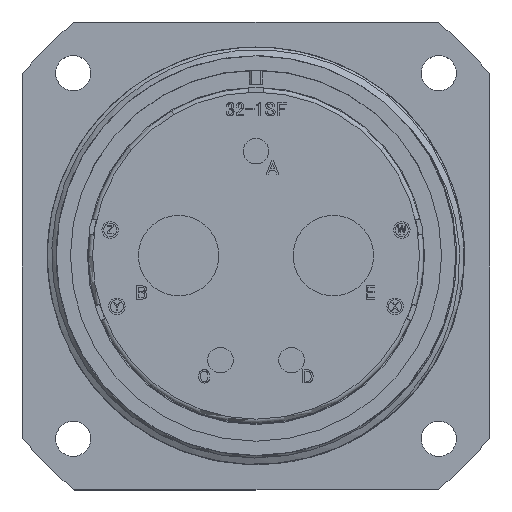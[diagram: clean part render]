
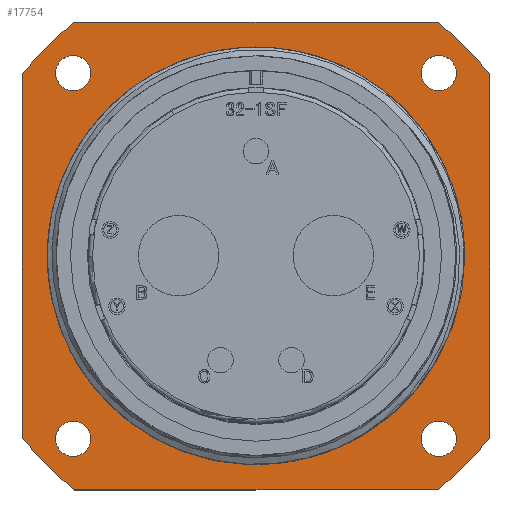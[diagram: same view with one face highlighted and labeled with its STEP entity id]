
A CAD part, top view. The second image highlights one B-rep face of the part: STEP entity #17754.
In plain terms, the highlighted planar face has unit normal (0, 0, 1).
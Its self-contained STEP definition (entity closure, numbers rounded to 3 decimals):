
#70 = FACE_BOUND ( 'NONE', #11928, .T. ) ;
#612 = AXIS2_PLACEMENT_3D ( 'NONE', #27359, #22939, #16564 ) ;
#1085 = FACE_BOUND ( 'NONE', #10153, .T. ) ;
#1954 = VERTEX_POINT ( 'NONE', #6084 ) ;
#2079 = AXIS2_PLACEMENT_3D ( 'NONE', #9412, #24496, #11592 ) ;
#2088 = FACE_OUTER_BOUND ( 'NONE', #9133, .T. ) ;
#2106 = ORIENTED_EDGE ( 'NONE', *, *, #27955, .F. ) ;
#2226 = DIRECTION ( 'NONE',  ( 1., 0., 0. ) ) ;
#2342 = VECTOR ( 'NONE', #19134, 1000. ) ;
#2668 = DIRECTION ( 'NONE',  ( 0., 0., 1. ) ) ;
#3147 = VERTEX_POINT ( 'NONE', #7499 ) ;
#3341 = AXIS2_PLACEMENT_3D ( 'NONE', #24851, #26928, #22784 ) ;
#3880 = VERTEX_POINT ( 'NONE', #22207 ) ;
#4613 = DIRECTION ( 'NONE',  ( 0., 0., 1. ) ) ;
#4856 = DIRECTION ( 'NONE',  ( 1., 0., 0. ) ) ;
#5010 = ORIENTED_EDGE ( 'NONE', *, *, #20428, .F. ) ;
#5076 = VERTEX_POINT ( 'NONE', #27268 ) ;
#5521 = DIRECTION ( 'NONE',  ( 0., 0., 1. ) ) ;
#5614 = ORIENTED_EDGE ( 'NONE', *, *, #14284, .F. ) ;
#5782 = ORIENTED_EDGE ( 'NONE', *, *, #19421, .T. ) ;
#6084 = CARTESIAN_POINT ( 'NONE',  ( -22.059, -28.45, -22.4 ) ) ;
#6356 = EDGE_CURVE ( 'NONE', #11902, #3880, #8085, .T. ) ;
#6465 = CARTESIAN_POINT ( 'NONE',  ( 22.059, 28.45, -22.4 ) ) ;
#6710 = ORIENTED_EDGE ( 'NONE', *, *, #24915, .F. ) ;
#6860 = VERTEX_POINT ( 'NONE', #18551 ) ;
#6940 = CIRCLE ( 'NONE', #8405, 2.135 ) ;
#7108 = VERTEX_POINT ( 'NONE', #22935 ) ;
#7183 = CARTESIAN_POINT ( 'NONE',  ( -22.225, 22.225, -22.4 ) ) ;
#7380 = DIRECTION ( 'NONE',  ( 1., 0., 0. ) ) ;
#7414 = CARTESIAN_POINT ( 'NONE',  ( 0., 0., -22.4 ) ) ;
#7428 = AXIS2_PLACEMENT_3D ( 'NONE', #14870, #14961, #16489 ) ;
#7499 = CARTESIAN_POINT ( 'NONE',  ( 28.45, -22.059, -22.4 ) ) ;
#7908 = CIRCLE ( 'NONE', #25648, 36. ) ;
#8085 = LINE ( 'NONE', #12441, #2342 ) ;
#8210 = CARTESIAN_POINT ( 'NONE',  ( 25.38, 0., -22.4 ) ) ;
#8405 = AXIS2_PLACEMENT_3D ( 'NONE', #27933, #8608, #17147 ) ;
#8608 = DIRECTION ( 'NONE',  ( 0., 0., 1. ) ) ;
#8612 = LINE ( 'NONE', #18057, #13024 ) ;
#8638 = EDGE_LOOP ( 'NONE', ( #5010 ) ) ;
#9133 = EDGE_LOOP ( 'NONE', ( #26695, #23628, #20089, #5614, #5782, #24178, #10041, #2106 ) ) ;
#9401 = CIRCLE ( 'NONE', #21752, 25.38 ) ;
#9412 = CARTESIAN_POINT ( 'NONE',  ( 22.225, 22.225, -22.4 ) ) ;
#9938 = CARTESIAN_POINT ( 'NONE',  ( 0., 0., -22.4 ) ) ;
#10041 = ORIENTED_EDGE ( 'NONE', *, *, #26138, .T. ) ;
#10153 = EDGE_LOOP ( 'NONE', ( #24584 ) ) ;
#10294 = CARTESIAN_POINT ( 'NONE',  ( 24.36, -22.225, -22.4 ) ) ;
#10477 = AXIS2_PLACEMENT_3D ( 'NONE', #7183, #15995, #7380 ) ;
#10858 = FACE_BOUND ( 'NONE', #14569, .T. ) ;
#11563 = EDGE_LOOP ( 'NONE', ( #6710 ) ) ;
#11592 = DIRECTION ( 'NONE',  ( -1., 0., 0. ) ) ;
#11902 = VERTEX_POINT ( 'NONE', #18763 ) ;
#11923 = CIRCLE ( 'NONE', #22986, 36. ) ;
#11928 = EDGE_LOOP ( 'NONE', ( #19859 ) ) ;
#12159 = EDGE_CURVE ( 'NONE', #12859, #12859, #24564, .T. ) ;
#12276 = CARTESIAN_POINT ( 'NONE',  ( -22.059, 28.45, -22.4 ) ) ;
#12438 = CARTESIAN_POINT ( 'NONE',  ( 28.45, 22.059, -22.4 ) ) ;
#12441 = CARTESIAN_POINT ( 'NONE',  ( -28.45, 22.059, -22.4 ) ) ;
#12490 = VERTEX_POINT ( 'NONE', #6465 ) ;
#12859 = VERTEX_POINT ( 'NONE', #10294 ) ;
#13024 = VECTOR ( 'NONE', #16000, 1000. ) ;
#13384 = AXIS2_PLACEMENT_3D ( 'NONE', #17789, #2668, #4856 ) ;
#13995 = LINE ( 'NONE', #12438, #22386 ) ;
#14198 = PLANE ( 'NONE',  #612 ) ;
#14226 = VERTEX_POINT ( 'NONE', #8210 ) ;
#14284 = EDGE_CURVE ( 'NONE', #6860, #1954, #8612, .T. ) ;
#14393 = DIRECTION ( 'NONE',  ( 1., 0., 0. ) ) ;
#14418 = CARTESIAN_POINT ( 'NONE',  ( 28.45, 22.059, -22.4 ) ) ;
#14569 = EDGE_LOOP ( 'NONE', ( #16523 ) ) ;
#14603 = DIRECTION ( 'NONE',  ( 0., -1., 0. ) ) ;
#14870 = CARTESIAN_POINT ( 'NONE',  ( 0., 0., -22.4 ) ) ;
#14961 = DIRECTION ( 'NONE',  ( 0., 0., 1. ) ) ;
#15198 = CARTESIAN_POINT ( 'NONE',  ( 0., 0., -22.4 ) ) ;
#15645 = DIRECTION ( 'NONE',  ( 0., 0., 1. ) ) ;
#15995 = DIRECTION ( 'NONE',  ( 0., 0., 1. ) ) ;
#16000 = DIRECTION ( 'NONE',  ( -1., 0., 0. ) ) ;
#16032 = CIRCLE ( 'NONE', #10477, 2.135 ) ;
#16489 = DIRECTION ( 'NONE',  ( 1., 0., 0. ) ) ;
#16523 = ORIENTED_EDGE ( 'NONE', *, *, #21661, .F. ) ;
#16564 = DIRECTION ( 'NONE',  ( -1., 0., 0. ) ) ;
#16714 = EDGE_CURVE ( 'NONE', #17347, #3147, #13995, .T. ) ;
#16878 = EDGE_CURVE ( 'NONE', #22321, #3880, #11923, .T. ) ;
#17147 = DIRECTION ( 'NONE',  ( -1., 0., 0. ) ) ;
#17347 = VERTEX_POINT ( 'NONE', #14418 ) ;
#17633 = FACE_BOUND ( 'NONE', #8638, .T. ) ;
#17655 = CIRCLE ( 'NONE', #7428, 36. ) ;
#17754 = ADVANCED_FACE ( 'NONE', ( #1085, #10858, #17633, #22684, #70, #2088 ), #14198, .F. ) ;
#17789 = CARTESIAN_POINT ( 'NONE',  ( 22.225, -22.225, -22.4 ) ) ;
#18057 = CARTESIAN_POINT ( 'NONE',  ( 22.059, -28.45, -22.4 ) ) ;
#18258 = DIRECTION ( 'NONE',  ( 1., 0., 0. ) ) ;
#18551 = CARTESIAN_POINT ( 'NONE',  ( 22.059, -28.45, -22.4 ) ) ;
#18763 = CARTESIAN_POINT ( 'NONE',  ( -28.45, -22.059, -22.4 ) ) ;
#18814 = CARTESIAN_POINT ( 'NONE',  ( -24.36, -22.225, -22.4 ) ) ;
#18940 = LINE ( 'NONE', #20323, #23632 ) ;
#19134 = DIRECTION ( 'NONE',  ( 0., 1., 0. ) ) ;
#19373 = EDGE_CURVE ( 'NONE', #14226, #14226, #9401, .T. ) ;
#19421 = EDGE_CURVE ( 'NONE', #6860, #3147, #21565, .T. ) ;
#19859 = ORIENTED_EDGE ( 'NONE', *, *, #19373, .F. ) ;
#20089 = ORIENTED_EDGE ( 'NONE', *, *, #22772, .T. ) ;
#20323 = CARTESIAN_POINT ( 'NONE',  ( 22.059, 28.45, -22.4 ) ) ;
#20428 = EDGE_CURVE ( 'NONE', #7108, #7108, #25213, .T. ) ;
#21565 = CIRCLE ( 'NONE', #3341, 36. ) ;
#21661 = EDGE_CURVE ( 'NONE', #26658, #26658, #6940, .T. ) ;
#21752 = AXIS2_PLACEMENT_3D ( 'NONE', #7414, #15645, #22507 ) ;
#22207 = CARTESIAN_POINT ( 'NONE',  ( -28.45, 22.059, -22.4 ) ) ;
#22321 = VERTEX_POINT ( 'NONE', #12276 ) ;
#22386 = VECTOR ( 'NONE', #14603, 1000. ) ;
#22507 = DIRECTION ( 'NONE',  ( 1., 0., 0. ) ) ;
#22684 = FACE_BOUND ( 'NONE', #11563, .T. ) ;
#22772 = EDGE_CURVE ( 'NONE', #11902, #1954, #7908, .T. ) ;
#22784 = DIRECTION ( 'NONE',  ( 1., 0., 0. ) ) ;
#22935 = CARTESIAN_POINT ( 'NONE',  ( 20.09, 22.225, -22.4 ) ) ;
#22939 = DIRECTION ( 'NONE',  ( 0., 0., -1. ) ) ;
#22986 = AXIS2_PLACEMENT_3D ( 'NONE', #9938, #5521, #14393 ) ;
#23628 = ORIENTED_EDGE ( 'NONE', *, *, #6356, .F. ) ;
#23632 = VECTOR ( 'NONE', #18258, 1000. ) ;
#24178 = ORIENTED_EDGE ( 'NONE', *, *, #16714, .F. ) ;
#24496 = DIRECTION ( 'NONE',  ( 0., 0., 1. ) ) ;
#24564 = CIRCLE ( 'NONE', #13384, 2.135 ) ;
#24584 = ORIENTED_EDGE ( 'NONE', *, *, #12159, .F. ) ;
#24851 = CARTESIAN_POINT ( 'NONE',  ( 0., 0., -22.4 ) ) ;
#24915 = EDGE_CURVE ( 'NONE', #5076, #5076, #16032, .T. ) ;
#25213 = CIRCLE ( 'NONE', #2079, 2.135 ) ;
#25648 = AXIS2_PLACEMENT_3D ( 'NONE', #15198, #4613, #2226 ) ;
#26138 = EDGE_CURVE ( 'NONE', #17347, #12490, #17655, .T. ) ;
#26658 = VERTEX_POINT ( 'NONE', #18814 ) ;
#26695 = ORIENTED_EDGE ( 'NONE', *, *, #16878, .T. ) ;
#26928 = DIRECTION ( 'NONE',  ( 0., 0., 1. ) ) ;
#27268 = CARTESIAN_POINT ( 'NONE',  ( -20.09, 22.225, -22.4 ) ) ;
#27359 = CARTESIAN_POINT ( 'NONE',  ( 0., 25.38, -22.4 ) ) ;
#27933 = CARTESIAN_POINT ( 'NONE',  ( -22.225, -22.225, -22.4 ) ) ;
#27955 = EDGE_CURVE ( 'NONE', #22321, #12490, #18940, .T. ) ;
